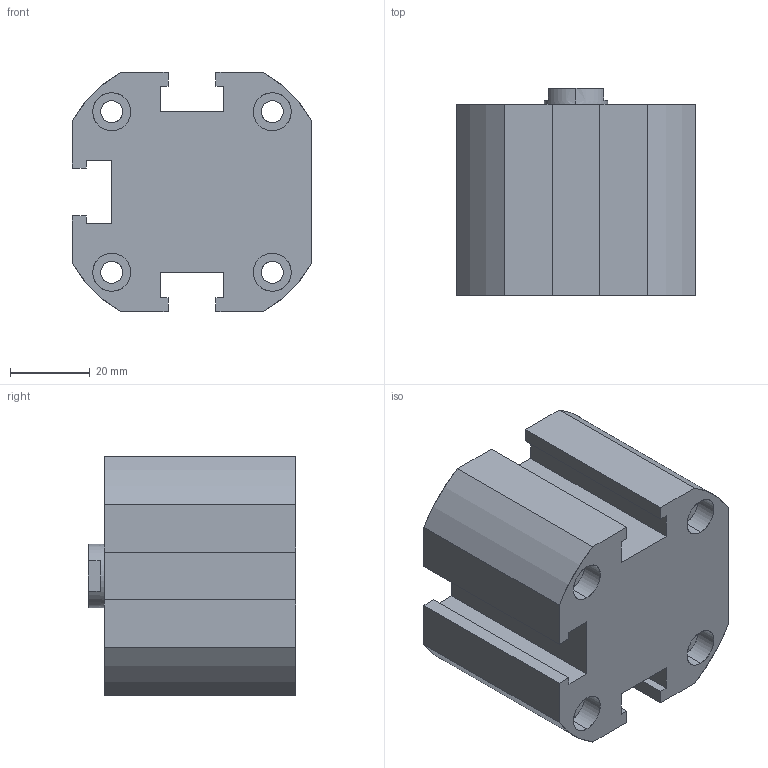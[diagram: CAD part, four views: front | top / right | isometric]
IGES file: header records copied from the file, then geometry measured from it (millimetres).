
Start section: SolidWorks IGES file using analytic representation for surfaces
Global section: file name: C:\Users\Toshiba\Desktop\XG#2-40D-10.IGS; native system: SolidWorks 2014; preprocessor: SolidWorks 2014; author: Toshiba; date: 160524.094835; units: millimetre
Bounding box: 60 x 52 x 60 mm (x, y, z)
Surface area: 25213.3 mm2 (no closed solid volume)
Topology: 0 solids, 0 shells, 114 faces, 2014 edges, 2008 vertices
Faces by surface type: revolution 64, bspline 50
